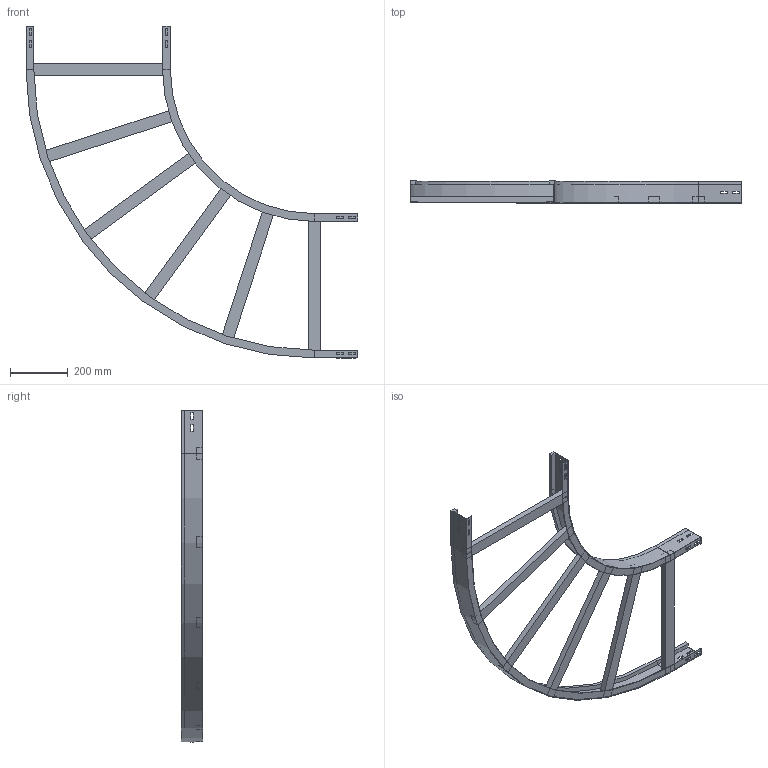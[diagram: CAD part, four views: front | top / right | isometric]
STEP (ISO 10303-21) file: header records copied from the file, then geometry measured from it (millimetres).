
FILE_DESCRIPTION (( 'STEP AP214' ), '1' );
FILE_NAME ('10B5C500.step', '2025-02-21T15:25:52', ( '' ), ( '' ), 'SwSTEP 2.0', 'SolidWorks 2023', '' );
FILE_SCHEMA (( 'AUTOMOTIVE_DESIGN' ));
Length unit declared in the file: millimetre
Products named in the file (4): A2_LONGH.ESTERNO 90°_H75_R500+500; 10B5C500; A2_LONGH.INTERNO 90°_H75_R500; TRAVERSINO_500
Assembly tree (8 placements, depth 2):
  10B5C500
    A2_LONGH.INTERNO 90°_H75_R500
    A2_LONGH.ESTERNO 90°_H75_R500+500
    TRAVERSINO_500  x6
Bounding box: 1150 x 75 x 1150 mm (x, y, z)
Volume: 3564460.2 mm3; surface area: 1065973.9 mm2
Topology: 8 solids, 8 shells, 152 faces, 376 edges, 240 vertices
Faces by surface type: plane 144, cylinder 8
Entity records: 3845 total; most frequent: CARTESIAN_POINT 649, ORIENTED_EDGE 632, DIRECTION 598, EDGE_CURVE 316, VECTOR 300, LINE 300, VERTEX_POINT 200, EDGE_LOOP 154
